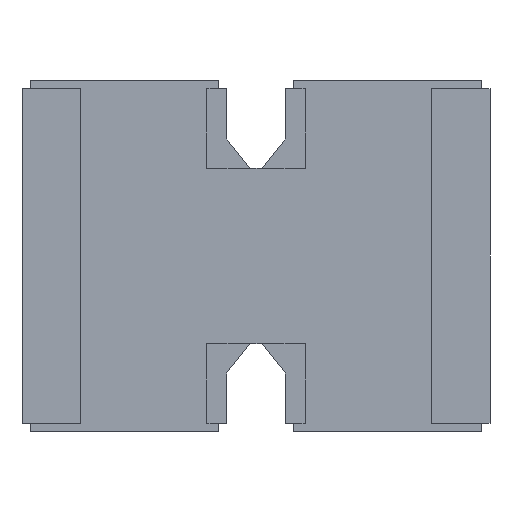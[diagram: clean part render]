
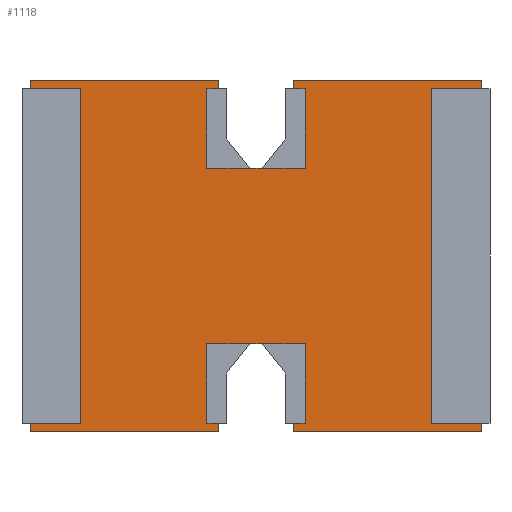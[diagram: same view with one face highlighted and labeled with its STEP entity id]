
A CAD part, front view. The second image highlights one B-rep face of the part: STEP entity #1118.
In plain terms, the highlighted planar face has unit normal (0, -1, 0).
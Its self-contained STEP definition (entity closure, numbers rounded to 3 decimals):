
#38=FACE_OUTER_BOUND('',#102,.T.);
#102=EDGE_LOOP('',(#757,#758,#759,#760,#761,#762,#763,#764,#765,#766,#767,
#768,#769,#770,#771,#772));
#152=LINE('',#1521,#296);
#153=LINE('',#1525,#297);
#158=LINE('',#1535,#302);
#160=LINE('',#1539,#304);
#163=LINE('',#1544,#307);
#165=LINE('',#1549,#309);
#170=LINE('',#1560,#314);
#173=LINE('',#1566,#317);
#176=LINE('',#1571,#320);
#178=LINE('',#1575,#322);
#183=LINE('',#1584,#327);
#184=LINE('',#1587,#328);
#187=LINE('',#1593,#331);
#190=LINE('',#1599,#334);
#193=LINE('',#1604,#337);
#195=LINE('',#1607,#339);
#296=VECTOR('',#1245,0.1);
#297=VECTOR('',#1248,0.322);
#302=VECTOR('',#1255,0.1);
#304=VECTOR('',#1259,0.322);
#307=VECTOR('',#1264,0.6);
#309=VECTOR('',#1268,0.064);
#314=VECTOR('',#1275,0.048);
#317=VECTOR('',#1280,0.064);
#320=VECTOR('',#1285,0.048);
#322=VECTOR('',#1289,0.064);
#327=VECTOR('',#1296,0.1);
#328=VECTOR('',#1299,0.1);
#331=VECTOR('',#1304,0.322);
#334=VECTOR('',#1309,0.322);
#337=VECTOR('',#1314,0.6);
#339=VECTOR('',#1318,0.064);
#437=VERTEX_POINT('',#1514);
#440=VERTEX_POINT('',#1519);
#441=VERTEX_POINT('',#1523);
#442=VERTEX_POINT('',#1524);
#445=VERTEX_POINT('',#1532);
#447=VERTEX_POINT('',#1538);
#449=VERTEX_POINT('',#1547);
#450=VERTEX_POINT('',#1548);
#453=VERTEX_POINT('',#1556);
#455=VERTEX_POINT('',#1559);
#457=VERTEX_POINT('',#1565);
#459=VERTEX_POINT('',#1574);
#462=VERTEX_POINT('',#1582);
#463=VERTEX_POINT('',#1586);
#465=VERTEX_POINT('',#1592);
#467=VERTEX_POINT('',#1598);
#536=EDGE_CURVE('',#440,#437,#152,.T.);
#537=EDGE_CURVE('',#441,#442,#153,.T.);
#542=EDGE_CURVE('',#445,#441,#158,.T.);
#544=EDGE_CURVE('',#447,#440,#160,.T.);
#547=EDGE_CURVE('',#442,#447,#163,.T.);
#549=EDGE_CURVE('',#449,#450,#165,.T.);
#554=EDGE_CURVE('',#453,#455,#170,.T.);
#557=EDGE_CURVE('',#457,#445,#173,.T.);
#560=EDGE_CURVE('',#450,#457,#176,.T.);
#562=EDGE_CURVE('',#455,#459,#178,.T.);
#567=EDGE_CURVE('',#462,#449,#183,.T.);
#568=EDGE_CURVE('',#459,#463,#184,.T.);
#571=EDGE_CURVE('',#463,#465,#187,.T.);
#574=EDGE_CURVE('',#467,#462,#190,.T.);
#577=EDGE_CURVE('',#465,#467,#193,.T.);
#579=EDGE_CURVE('',#437,#453,#195,.T.);
#757=ORIENTED_EDGE('',*,*,#579,.F.);
#758=ORIENTED_EDGE('',*,*,#536,.F.);
#759=ORIENTED_EDGE('',*,*,#544,.F.);
#760=ORIENTED_EDGE('',*,*,#547,.F.);
#761=ORIENTED_EDGE('',*,*,#537,.F.);
#762=ORIENTED_EDGE('',*,*,#542,.F.);
#763=ORIENTED_EDGE('',*,*,#557,.F.);
#764=ORIENTED_EDGE('',*,*,#560,.F.);
#765=ORIENTED_EDGE('',*,*,#549,.F.);
#766=ORIENTED_EDGE('',*,*,#567,.F.);
#767=ORIENTED_EDGE('',*,*,#574,.F.);
#768=ORIENTED_EDGE('',*,*,#577,.F.);
#769=ORIENTED_EDGE('',*,*,#571,.F.);
#770=ORIENTED_EDGE('',*,*,#568,.F.);
#771=ORIENTED_EDGE('',*,*,#562,.F.);
#772=ORIENTED_EDGE('',*,*,#554,.F.);
#982=PLANE('',#1191);
#1118=ADVANCED_FACE('',(#38),#982,.F.);
#1191=AXIS2_PLACEMENT_3D('',#1610,#1322,#1323);
#1245=DIRECTION('',(0.,0.,-1.));
#1248=DIRECTION('',(-1.,0.,0.));
#1255=DIRECTION('',(0.,0.,-1.));
#1259=DIRECTION('',(1.,0.,0.));
#1264=DIRECTION('',(0.,0.,1.));
#1268=DIRECTION('',(-0.625,0.,0.781));
#1275=DIRECTION('',(1.,0.,0.));
#1280=DIRECTION('',(-0.625,0.,-0.781));
#1285=DIRECTION('',(-1.,0.,0.));
#1289=DIRECTION('',(0.625,0.,0.781));
#1296=DIRECTION('',(0.,0.,1.));
#1299=DIRECTION('',(0.,0.,1.));
#1304=DIRECTION('',(1.,0.,0.));
#1309=DIRECTION('',(-1.,0.,0.));
#1314=DIRECTION('',(0.,0.,-1.));
#1318=DIRECTION('',(0.625,0.,-0.781));
#1322=DIRECTION('center_axis',(0.,1.,0.));
#1323=DIRECTION('ref_axis',(0.,0.,1.));
#1514=CARTESIAN_POINT('',(0.322,0.,0.5));
#1519=CARTESIAN_POINT('',(0.322,0.,0.6));
#1521=CARTESIAN_POINT('',(0.322,0.,0.6));
#1523=CARTESIAN_POINT('',(0.322,0.,0.));
#1524=CARTESIAN_POINT('',(0.,0.,0.));
#1525=CARTESIAN_POINT('',(0.322,0.,0.));
#1532=CARTESIAN_POINT('',(0.322,0.,0.1));
#1535=CARTESIAN_POINT('',(0.322,0.,0.6));
#1538=CARTESIAN_POINT('',(0.,0.,0.6));
#1539=CARTESIAN_POINT('',(0.,0.,0.6));
#1544=CARTESIAN_POINT('',(0.,0.,0.));
#1547=CARTESIAN_POINT('',(0.45,0.,0.1));
#1548=CARTESIAN_POINT('',(0.41,0.,0.15));
#1549=CARTESIAN_POINT('',(0.45,0.,0.1));
#1556=CARTESIAN_POINT('',(0.362,0.,0.45));
#1559=CARTESIAN_POINT('',(0.41,0.,0.45));
#1560=CARTESIAN_POINT('',(0.322,0.,0.45));
#1565=CARTESIAN_POINT('',(0.362,0.,0.15));
#1566=CARTESIAN_POINT('',(0.362,0.,0.15));
#1571=CARTESIAN_POINT('',(0.45,0.,0.15));
#1574=CARTESIAN_POINT('',(0.45,0.,0.5));
#1575=CARTESIAN_POINT('',(0.41,0.,0.45));
#1582=CARTESIAN_POINT('',(0.45,0.,0.));
#1584=CARTESIAN_POINT('',(0.45,0.,0.));
#1586=CARTESIAN_POINT('',(0.45,0.,0.6));
#1587=CARTESIAN_POINT('',(0.45,0.,0.));
#1592=CARTESIAN_POINT('',(0.772,0.,0.6));
#1593=CARTESIAN_POINT('',(0.45,0.,0.6));
#1598=CARTESIAN_POINT('',(0.772,0.,0.));
#1599=CARTESIAN_POINT('',(0.772,0.,0.));
#1604=CARTESIAN_POINT('',(0.772,0.,0.6));
#1607=CARTESIAN_POINT('',(0.322,0.,0.5));
#1610=CARTESIAN_POINT('Origin',(0.336,0.,0.469));
